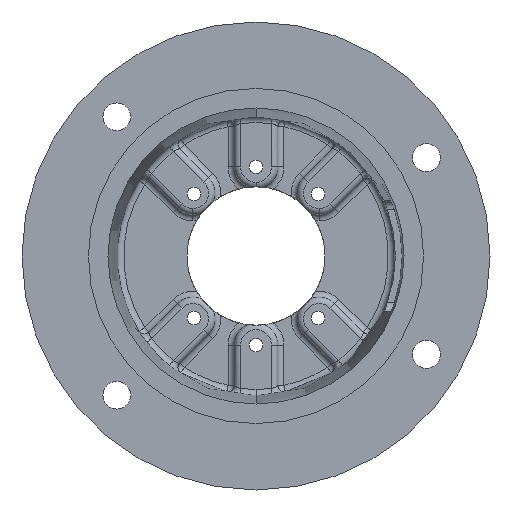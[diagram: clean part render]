
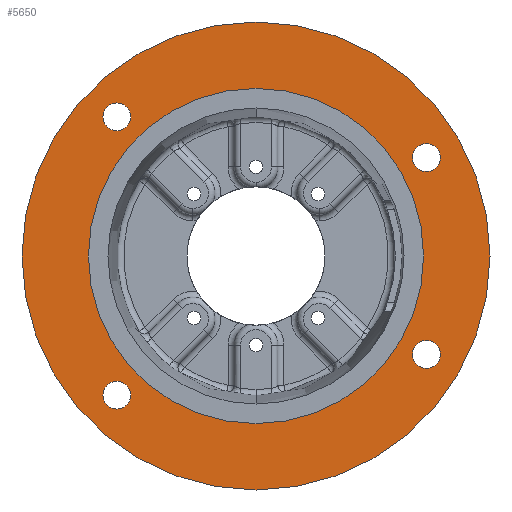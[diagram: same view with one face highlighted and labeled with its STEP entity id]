
A CAD part, front view. The second image highlights one B-rep face of the part: STEP entity #5650.
In plain terms, the highlighted planar face has unit normal (0, -1, 0).
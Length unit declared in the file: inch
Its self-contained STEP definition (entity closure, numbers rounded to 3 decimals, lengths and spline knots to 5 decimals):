
#202 = EDGE_LOOP ( 'NONE', ( #5533, #5776 ) ) ;
#259 = EDGE_CURVE ( 'NONE', #8467, #7933, #7421, .T. ) ;
#327 = CARTESIAN_POINT ( 'NONE',  ( -3.27037, 0., -3.59849 ) ) ;
#366 = CARTESIAN_POINT ( 'NONE',  ( -3.27037, 0., 3.59849 ) ) ;
#525 = DIRECTION ( 'NONE',  ( 0., 0., -1. ) ) ;
#579 = CIRCLE ( 'NONE', #2883, 0.32812 ) ;
#644 = EDGE_CURVE ( 'NONE', #13701, #12422, #7581, .T. ) ;
#668 = CIRCLE ( 'NONE', #1253, 0.32812 ) ;
#1078 = FACE_BOUND ( 'NONE', #4293, .T. ) ;
#1094 = EDGE_CURVE ( 'NONE', #3622, #11219, #13111, .T. ) ;
#1172 = VERTEX_POINT ( 'NONE', #327 ) ;
#1253 = AXIS2_PLACEMENT_3D ( 'NONE', #12136, #5711, #13207 ) ;
#1254 = CARTESIAN_POINT ( 'NONE',  ( 4.00537, 0., -1.98438 ) ) ;
#1266 = CARTESIAN_POINT ( 'NONE',  ( 0., 0., -5.5 ) ) ;
#1378 = VERTEX_POINT ( 'NONE', #12537 ) ;
#1606 = DIRECTION ( 'NONE',  ( 0., -1., 0. ) ) ;
#1776 = EDGE_LOOP ( 'NONE', ( #12548, #13373 ) ) ;
#1981 = EDGE_LOOP ( 'NONE', ( #6235, #11311 ) ) ;
#2138 = EDGE_LOOP ( 'NONE', ( #8610, #10746 ) ) ;
#2177 = CIRCLE ( 'NONE', #4532, 0.32812 ) ;
#2329 = AXIS2_PLACEMENT_3D ( 'NONE', #13329, #6910, #525 ) ;
#2395 = DIRECTION ( 'NONE',  ( 0., 0., -1. ) ) ;
#2398 = PLANE ( 'NONE',  #9735 ) ;
#2406 = DIRECTION ( 'NONE',  ( 0., -1., 0. ) ) ;
#2426 = CARTESIAN_POINT ( 'NONE',  ( 0., 0., 0. ) ) ;
#2458 = AXIS2_PLACEMENT_3D ( 'NONE', #7996, #1606, #9063 ) ;
#2746 = CIRCLE ( 'NONE', #11530, 0.32812 ) ;
#2883 = AXIS2_PLACEMENT_3D ( 'NONE', #11201, #4829, #12320 ) ;
#2934 = CIRCLE ( 'NONE', #2329, 3.9385 ) ;
#2951 = CARTESIAN_POINT ( 'NONE',  ( 0., 0., 5.5 ) ) ;
#2980 = DIRECTION ( 'NONE',  ( 0., 0., -1. ) ) ;
#3034 = CIRCLE ( 'NONE', #10367, 5.5 ) ;
#3070 = EDGE_CURVE ( 'NONE', #10409, #4560, #2177, .T. ) ;
#3164 = EDGE_CURVE ( 'NONE', #12422, #13701, #12868, .T. ) ;
#3262 = CARTESIAN_POINT ( 'NONE',  ( -3.27037, 0., 2.94224 ) ) ;
#3345 = AXIS2_PLACEMENT_3D ( 'NONE', #6729, #6715, #6678 ) ;
#3386 = ORIENTED_EDGE ( 'NONE', *, *, #6800, .F. ) ;
#3429 = DIRECTION ( 'NONE',  ( 0., -1., 0. ) ) ;
#3467 = DIRECTION ( 'NONE',  ( 0., 1., 0. ) ) ;
#3583 = FACE_OUTER_BOUND ( 'NONE', #1981, .T. ) ;
#3622 = VERTEX_POINT ( 'NONE', #8794 ) ;
#3938 = CARTESIAN_POINT ( 'NONE',  ( 4.00537, 0., 1.98437 ) ) ;
#4002 = VERTEX_POINT ( 'NONE', #3938 ) ;
#4211 = CARTESIAN_POINT ( 'NONE',  ( 4.00537, 0., -2.3125 ) ) ;
#4293 = EDGE_LOOP ( 'NONE', ( #3386, #8810 ) ) ;
#4532 = AXIS2_PLACEMENT_3D ( 'NONE', #4211, #3429, #2980 ) ;
#4557 = ORIENTED_EDGE ( 'NONE', *, *, #3164, .F. ) ;
#4560 = VERTEX_POINT ( 'NONE', #1254 ) ;
#4829 = DIRECTION ( 'NONE',  ( 0., -1., 0. ) ) ;
#4901 = CARTESIAN_POINT ( 'NONE',  ( -3.27037, 0., -3.27037 ) ) ;
#4988 = CARTESIAN_POINT ( 'NONE',  ( 0., 0., 0. ) ) ;
#5139 = DIRECTION ( 'NONE',  ( 0., 0., -1. ) ) ;
#5289 = AXIS2_PLACEMENT_3D ( 'NONE', #12261, #12239, #12221 ) ;
#5310 = EDGE_CURVE ( 'NONE', #4560, #10409, #579, .T. ) ;
#5320 = DIRECTION ( 'NONE',  ( 0., -1., 0. ) ) ;
#5360 = CARTESIAN_POINT ( 'NONE',  ( -3.27037, 0., 3.27037 ) ) ;
#5494 = CARTESIAN_POINT ( 'NONE',  ( 4.00537, 0., 2.64062 ) ) ;
#5533 = ORIENTED_EDGE ( 'NONE', *, *, #3070, .F. ) ;
#5563 = CARTESIAN_POINT ( 'NONE',  ( 4.00537, 0., -2.64063 ) ) ;
#5650 = ADVANCED_FACE ( 'NONE', ( #12113, #9263, #1078, #13110, #6395, #3583 ), #2398, .F. ) ;
#5711 = DIRECTION ( 'NONE',  ( 0., -1., 0. ) ) ;
#5776 = ORIENTED_EDGE ( 'NONE', *, *, #5310, .F. ) ;
#5826 = EDGE_CURVE ( 'NONE', #11219, #3622, #2934, .T. ) ;
#5966 = DIRECTION ( 'NONE',  ( 0., 0., -1. ) ) ;
#6049 = DIRECTION ( 'NONE',  ( 0., 0., -1. ) ) ;
#6132 = CARTESIAN_POINT ( 'NONE',  ( 4.00537, 0., 2.3125 ) ) ;
#6235 = ORIENTED_EDGE ( 'NONE', *, *, #11038, .T. ) ;
#6272 = CIRCLE ( 'NONE', #2458, 0.32812 ) ;
#6395 = FACE_BOUND ( 'NONE', #2138, .T. ) ;
#6678 = DIRECTION ( 'NONE',  ( 0., 0., -1. ) ) ;
#6715 = DIRECTION ( 'NONE',  ( 0., -1., 0. ) ) ;
#6729 = CARTESIAN_POINT ( 'NONE',  ( -3.27037, 0., 3.27037 ) ) ;
#6800 = EDGE_CURVE ( 'NONE', #1172, #1378, #2746, .T. ) ;
#6910 = DIRECTION ( 'NONE',  ( 0., -1., 0. ) ) ;
#7217 = DIRECTION ( 'NONE',  ( 0., 0., -1. ) ) ;
#7374 = EDGE_CURVE ( 'NONE', #13782, #4002, #11302, .T. ) ;
#7421 = CIRCLE ( 'NONE', #5289, 5.5 ) ;
#7581 = CIRCLE ( 'NONE', #3345, 0.32812 ) ;
#7933 = VERTEX_POINT ( 'NONE', #1266 ) ;
#7996 = CARTESIAN_POINT ( 'NONE',  ( 4.00537, 0., 2.3125 ) ) ;
#8467 = VERTEX_POINT ( 'NONE', #2951 ) ;
#8610 = ORIENTED_EDGE ( 'NONE', *, *, #5826, .F. ) ;
#8764 = CARTESIAN_POINT ( 'NONE',  ( -5.5, 0., 0. ) ) ;
#8779 = AXIS2_PLACEMENT_3D ( 'NONE', #2426, #2406, #2395 ) ;
#8794 = CARTESIAN_POINT ( 'NONE',  ( 0., 0., 3.9385 ) ) ;
#8810 = ORIENTED_EDGE ( 'NONE', *, *, #11373, .F. ) ;
#9063 = DIRECTION ( 'NONE',  ( 0., 0., -1. ) ) ;
#9263 = FACE_BOUND ( 'NONE', #202, .T. ) ;
#9536 = AXIS2_PLACEMENT_3D ( 'NONE', #5360, #5320, #5139 ) ;
#9551 = CARTESIAN_POINT ( 'NONE',  ( 0., 0., -3.9385 ) ) ;
#9735 = AXIS2_PLACEMENT_3D ( 'NONE', #8764, #3467, #10903 ) ;
#10367 = AXIS2_PLACEMENT_3D ( 'NONE', #4988, #12478, #6049 ) ;
#10409 = VERTEX_POINT ( 'NONE', #5563 ) ;
#10746 = ORIENTED_EDGE ( 'NONE', *, *, #1094, .F. ) ;
#10903 = DIRECTION ( 'NONE',  ( 0., 0., 1. ) ) ;
#11038 = EDGE_CURVE ( 'NONE', #7933, #8467, #3034, .T. ) ;
#11201 = CARTESIAN_POINT ( 'NONE',  ( 4.00537, 0., -2.3125 ) ) ;
#11219 = VERTEX_POINT ( 'NONE', #9551 ) ;
#11302 = CIRCLE ( 'NONE', #12467, 0.32812 ) ;
#11311 = ORIENTED_EDGE ( 'NONE', *, *, #259, .T. ) ;
#11373 = EDGE_CURVE ( 'NONE', #1378, #1172, #668, .T. ) ;
#11398 = EDGE_LOOP ( 'NONE', ( #13275, #4557 ) ) ;
#11530 = AXIS2_PLACEMENT_3D ( 'NONE', #4901, #12398, #5966 ) ;
#12113 = FACE_BOUND ( 'NONE', #1776, .T. ) ;
#12136 = CARTESIAN_POINT ( 'NONE',  ( -3.27037, 0., -3.27037 ) ) ;
#12221 = DIRECTION ( 'NONE',  ( 0., 0., -1. ) ) ;
#12239 = DIRECTION ( 'NONE',  ( 0., -1., 0. ) ) ;
#12261 = CARTESIAN_POINT ( 'NONE',  ( 0., 0., 0. ) ) ;
#12320 = DIRECTION ( 'NONE',  ( 0., 0., -1. ) ) ;
#12398 = DIRECTION ( 'NONE',  ( 0., -1., 0. ) ) ;
#12422 = VERTEX_POINT ( 'NONE', #366 ) ;
#12467 = AXIS2_PLACEMENT_3D ( 'NONE', #6132, #13633, #7217 ) ;
#12478 = DIRECTION ( 'NONE',  ( 0., -1., 0. ) ) ;
#12537 = CARTESIAN_POINT ( 'NONE',  ( -3.27037, 0., -2.94224 ) ) ;
#12548 = ORIENTED_EDGE ( 'NONE', *, *, #13273, .F. ) ;
#12868 = CIRCLE ( 'NONE', #9536, 0.32812 ) ;
#13110 = FACE_BOUND ( 'NONE', #11398, .T. ) ;
#13111 = CIRCLE ( 'NONE', #8779, 3.9385 ) ;
#13207 = DIRECTION ( 'NONE',  ( 0., 0., -1. ) ) ;
#13273 = EDGE_CURVE ( 'NONE', #4002, #13782, #6272, .T. ) ;
#13275 = ORIENTED_EDGE ( 'NONE', *, *, #644, .F. ) ;
#13329 = CARTESIAN_POINT ( 'NONE',  ( 0., 0., 0. ) ) ;
#13373 = ORIENTED_EDGE ( 'NONE', *, *, #7374, .F. ) ;
#13633 = DIRECTION ( 'NONE',  ( 0., -1., 0. ) ) ;
#13701 = VERTEX_POINT ( 'NONE', #3262 ) ;
#13782 = VERTEX_POINT ( 'NONE', #5494 ) ;
